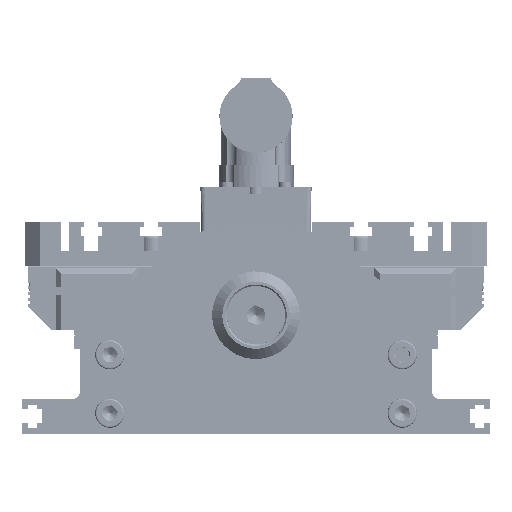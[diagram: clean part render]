
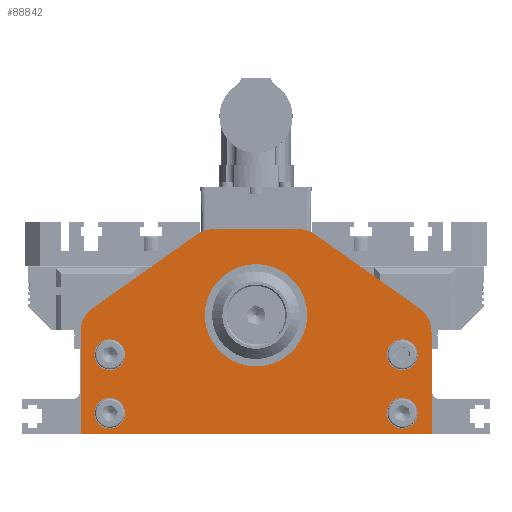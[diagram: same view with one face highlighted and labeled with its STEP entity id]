
A CAD part, front view. The second image highlights one B-rep face of the part: STEP entity #88842.
In plain terms, the highlighted planar face has unit normal (0, -1, 0).
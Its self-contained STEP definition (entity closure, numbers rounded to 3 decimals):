
#870=FACE_BOUND('',#13740,.T.);
#871=FACE_BOUND('',#13741,.T.);
#872=FACE_BOUND('',#13742,.T.);
#873=FACE_BOUND('',#13743,.T.);
#874=FACE_BOUND('',#13744,.T.);
#3441=PLANE('',#96165);
#8876=FACE_OUTER_BOUND('',#13739,.T.);
#13739=EDGE_LOOP('',(#75941,#75942,#75943,#75944,#75945,#75946,#75947,#75948,
#75949,#75950));
#13740=EDGE_LOOP('',(#75951,#75952));
#13741=EDGE_LOOP('',(#75953,#75954));
#13742=EDGE_LOOP('',(#75955,#75956));
#13743=EDGE_LOOP('',(#75957,#75958));
#13744=EDGE_LOOP('',(#75959,#75960));
#21849=LINE('',#145447,#29845);
#21851=LINE('',#145451,#29847);
#21852=LINE('',#145455,#29848);
#21853=LINE('',#145457,#29849);
#21854=LINE('',#145459,#29850);
#21855=LINE('',#145463,#29851);
#29845=VECTOR('',#117494,10.);
#29847=VECTOR('',#117498,10.);
#29848=VECTOR('',#117501,10.);
#29849=VECTOR('',#117502,10.);
#29850=VECTOR('',#117503,10.);
#29851=VECTOR('',#117506,10.);
#33684=CIRCLE('',#96163,10.);
#33685=CIRCLE('',#96166,10.);
#33686=CIRCLE('',#96167,10.);
#33687=CIRCLE('',#96168,10.);
#33688=CIRCLE('',#96169,5.25);
#33689=CIRCLE('',#96170,5.25);
#33690=CIRCLE('',#96171,5.25);
#33691=CIRCLE('',#96172,5.25);
#33692=CIRCLE('',#96173,5.25);
#33693=CIRCLE('',#96174,5.25);
#33694=CIRCLE('',#96175,5.25);
#33695=CIRCLE('',#96176,5.25);
#33696=CIRCLE('',#96177,17.5);
#33697=CIRCLE('',#96178,17.5);
#41647=VERTEX_POINT('',#145440);
#41648=VERTEX_POINT('',#145441);
#41649=VERTEX_POINT('',#145446);
#41650=VERTEX_POINT('',#145450);
#41651=VERTEX_POINT('',#145452);
#41652=VERTEX_POINT('',#145454);
#41653=VERTEX_POINT('',#145456);
#41654=VERTEX_POINT('',#145458);
#41655=VERTEX_POINT('',#145460);
#41656=VERTEX_POINT('',#145462);
#41657=VERTEX_POINT('',#145465);
#41658=VERTEX_POINT('',#145466);
#41659=VERTEX_POINT('',#145469);
#41660=VERTEX_POINT('',#145470);
#41661=VERTEX_POINT('',#145473);
#41662=VERTEX_POINT('',#145474);
#41663=VERTEX_POINT('',#145477);
#41664=VERTEX_POINT('',#145478);
#41665=VERTEX_POINT('',#145481);
#41666=VERTEX_POINT('',#145482);
#53472=EDGE_CURVE('',#41647,#41648,#33684,.T.);
#53475=EDGE_CURVE('',#41649,#41648,#21849,.T.);
#53477=EDGE_CURVE('',#41647,#41650,#21851,.T.);
#53478=EDGE_CURVE('',#41651,#41650,#33685,.T.);
#53479=EDGE_CURVE('',#41651,#41652,#21852,.T.);
#53480=EDGE_CURVE('',#41652,#41653,#21853,.T.);
#53481=EDGE_CURVE('',#41653,#41654,#21854,.T.);
#53482=EDGE_CURVE('',#41655,#41654,#33686,.T.);
#53483=EDGE_CURVE('',#41655,#41656,#21855,.T.);
#53484=EDGE_CURVE('',#41649,#41656,#33687,.T.);
#53485=EDGE_CURVE('',#41657,#41658,#33688,.T.);
#53486=EDGE_CURVE('',#41658,#41657,#33689,.T.);
#53487=EDGE_CURVE('',#41659,#41660,#33690,.T.);
#53488=EDGE_CURVE('',#41660,#41659,#33691,.T.);
#53489=EDGE_CURVE('',#41661,#41662,#33692,.T.);
#53490=EDGE_CURVE('',#41662,#41661,#33693,.T.);
#53491=EDGE_CURVE('',#41663,#41664,#33694,.T.);
#53492=EDGE_CURVE('',#41664,#41663,#33695,.T.);
#53493=EDGE_CURVE('',#41665,#41666,#33696,.T.);
#53494=EDGE_CURVE('',#41666,#41665,#33697,.T.);
#75941=ORIENTED_EDGE('',*,*,#53472,.F.);
#75942=ORIENTED_EDGE('',*,*,#53477,.T.);
#75943=ORIENTED_EDGE('',*,*,#53478,.F.);
#75944=ORIENTED_EDGE('',*,*,#53479,.T.);
#75945=ORIENTED_EDGE('',*,*,#53480,.T.);
#75946=ORIENTED_EDGE('',*,*,#53481,.T.);
#75947=ORIENTED_EDGE('',*,*,#53482,.F.);
#75948=ORIENTED_EDGE('',*,*,#53483,.T.);
#75949=ORIENTED_EDGE('',*,*,#53484,.F.);
#75950=ORIENTED_EDGE('',*,*,#53475,.T.);
#75951=ORIENTED_EDGE('',*,*,#53485,.T.);
#75952=ORIENTED_EDGE('',*,*,#53486,.T.);
#75953=ORIENTED_EDGE('',*,*,#53487,.T.);
#75954=ORIENTED_EDGE('',*,*,#53488,.T.);
#75955=ORIENTED_EDGE('',*,*,#53489,.T.);
#75956=ORIENTED_EDGE('',*,*,#53490,.T.);
#75957=ORIENTED_EDGE('',*,*,#53491,.T.);
#75958=ORIENTED_EDGE('',*,*,#53492,.T.);
#75959=ORIENTED_EDGE('',*,*,#53493,.T.);
#75960=ORIENTED_EDGE('',*,*,#53494,.T.);
#88842=ADVANCED_FACE('',(#8876,#870,#871,#872,#873,#874),#3441,.F.);
#96163=AXIS2_PLACEMENT_3D('',#145442,#117488,#117489);
#96165=AXIS2_PLACEMENT_3D('',#145449,#117496,#117497);
#96166=AXIS2_PLACEMENT_3D('',#145453,#117499,#117500);
#96167=AXIS2_PLACEMENT_3D('',#145461,#117504,#117505);
#96168=AXIS2_PLACEMENT_3D('',#145464,#117507,#117508);
#96169=AXIS2_PLACEMENT_3D('',#145467,#117509,#117510);
#96170=AXIS2_PLACEMENT_3D('',#145468,#117511,#117512);
#96171=AXIS2_PLACEMENT_3D('',#145471,#117513,#117514);
#96172=AXIS2_PLACEMENT_3D('',#145472,#117515,#117516);
#96173=AXIS2_PLACEMENT_3D('',#145475,#117517,#117518);
#96174=AXIS2_PLACEMENT_3D('',#145476,#117519,#117520);
#96175=AXIS2_PLACEMENT_3D('',#145479,#117521,#117522);
#96176=AXIS2_PLACEMENT_3D('',#145480,#117523,#117524);
#96177=AXIS2_PLACEMENT_3D('',#145483,#117525,#117526);
#96178=AXIS2_PLACEMENT_3D('',#145484,#117527,#117528);
#117488=DIRECTION('center_axis',(0.,1.,0.));
#117489=DIRECTION('ref_axis',(-0.303,0.,
0.953));
#117494=DIRECTION('',(-1.,0.,0.));
#117496=DIRECTION('center_axis',(0.,1.,0.));
#117497=DIRECTION('ref_axis',(1.,0.,0.));
#117498=DIRECTION('',(-0.817,0.,-0.577));
#117499=DIRECTION('center_axis',(0.,1.,0.));
#117500=DIRECTION('ref_axis',(-0.888,0.,
0.46));
#117501=DIRECTION('',(0.,0.,-1.));
#117502=DIRECTION('',(1.,0.,0.));
#117503=DIRECTION('',(0.,0.,1.));
#117504=DIRECTION('center_axis',(0.,1.,0.));
#117505=DIRECTION('ref_axis',(0.888,0.,0.46));
#117506=DIRECTION('',(-0.817,0.,0.577));
#117507=DIRECTION('center_axis',(0.,1.,0.));
#117508=DIRECTION('ref_axis',(0.303,0.,0.953));
#117509=DIRECTION('center_axis',(0.,1.,0.));
#117510=DIRECTION('ref_axis',(-1.,0.,0.));
#117511=DIRECTION('center_axis',(0.,1.,0.));
#117512=DIRECTION('ref_axis',(-1.,0.,0.));
#117513=DIRECTION('center_axis',(0.,1.,0.));
#117514=DIRECTION('ref_axis',(-1.,0.,0.));
#117515=DIRECTION('center_axis',(0.,1.,0.));
#117516=DIRECTION('ref_axis',(-1.,0.,0.));
#117517=DIRECTION('center_axis',(0.,1.,0.));
#117518=DIRECTION('ref_axis',(-1.,0.,0.));
#117519=DIRECTION('center_axis',(0.,1.,0.));
#117520=DIRECTION('ref_axis',(-1.,0.,0.));
#117521=DIRECTION('center_axis',(0.,1.,0.));
#117522=DIRECTION('ref_axis',(-1.,0.,0.));
#117523=DIRECTION('center_axis',(0.,1.,0.));
#117524=DIRECTION('ref_axis',(-1.,0.,0.));
#117525=DIRECTION('center_axis',(0.,1.,0.));
#117526=DIRECTION('ref_axis',(-1.,0.,0.));
#117527=DIRECTION('center_axis',(0.,1.,0.));
#117528=DIRECTION('ref_axis',(-1.,0.,0.));
#145440=CARTESIAN_POINT('',(-20.093,-225.,50.92));
#145441=CARTESIAN_POINT('',(-14.326,-225.,52.75));
#145442=CARTESIAN_POINT('Origin',(-14.326,-225.,42.75));
#145446=CARTESIAN_POINT('',(14.326,-225.,52.75));
#145447=CARTESIAN_POINT('',(60.,-225.,52.75));
#145449=CARTESIAN_POINT('Origin',(0.,-225.,17.75));
#145450=CARTESIAN_POINT('',(-55.767,-225.,25.738));
#145451=CARTESIAN_POINT('',(-41.155,-225.,36.053));
#145452=CARTESIAN_POINT('',(-60.,-225.,17.568));
#145453=CARTESIAN_POINT('Origin',(-50.,-225.,17.568));
#145454=CARTESIAN_POINT('',(-60.,-225.,-17.25));
#145455=CARTESIAN_POINT('',(-60.,-225.,52.75));
#145456=CARTESIAN_POINT('',(60.,-225.,-17.25));
#145457=CARTESIAN_POINT('',(-60.,-225.,-17.25));
#145458=CARTESIAN_POINT('',(60.,-225.,17.568));
#145459=CARTESIAN_POINT('',(60.,-225.,-17.25));
#145460=CARTESIAN_POINT('',(55.767,-225.,25.738));
#145461=CARTESIAN_POINT('Origin',(50.,-225.,17.568));
#145462=CARTESIAN_POINT('',(20.093,-225.,50.92));
#145463=CARTESIAN_POINT('',(19.905,-225.,51.053));
#145464=CARTESIAN_POINT('Origin',(14.326,-225.,42.75));
#145465=CARTESIAN_POINT('',(44.75,-225.,9.75));
#145466=CARTESIAN_POINT('',(55.25,-225.,9.75));
#145467=CARTESIAN_POINT('Origin',(50.,-225.,9.75));
#145468=CARTESIAN_POINT('Origin',(50.,-225.,9.75));
#145469=CARTESIAN_POINT('',(-55.25,-225.,-10.25));
#145470=CARTESIAN_POINT('',(-44.75,-225.,-10.25));
#145471=CARTESIAN_POINT('Origin',(-50.,-225.,-10.25));
#145472=CARTESIAN_POINT('Origin',(-50.,-225.,-10.25));
#145473=CARTESIAN_POINT('',(-55.25,-225.,9.75));
#145474=CARTESIAN_POINT('',(-44.75,-225.,9.75));
#145475=CARTESIAN_POINT('Origin',(-50.,-225.,9.75));
#145476=CARTESIAN_POINT('Origin',(-50.,-225.,9.75));
#145477=CARTESIAN_POINT('',(44.75,-225.,-10.25));
#145478=CARTESIAN_POINT('',(55.25,-225.,-10.25));
#145479=CARTESIAN_POINT('Origin',(50.,-225.,-10.25));
#145480=CARTESIAN_POINT('Origin',(50.,-225.,-10.25));
#145481=CARTESIAN_POINT('',(-17.5,-225.,23.25));
#145482=CARTESIAN_POINT('',(17.5,-225.,23.25));
#145483=CARTESIAN_POINT('Origin',(0.,-225.,23.25));
#145484=CARTESIAN_POINT('Origin',(0.,-225.,23.25));
